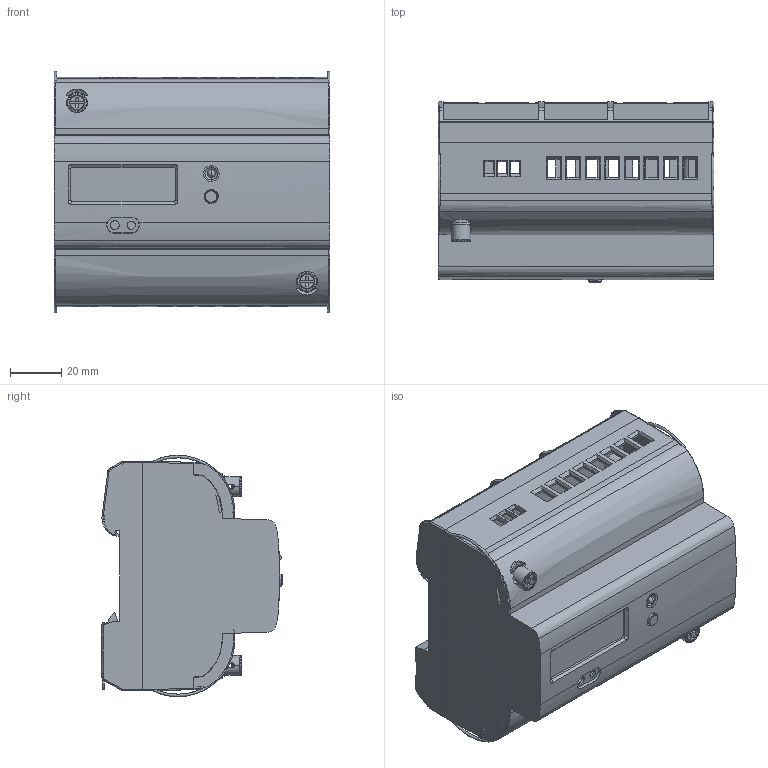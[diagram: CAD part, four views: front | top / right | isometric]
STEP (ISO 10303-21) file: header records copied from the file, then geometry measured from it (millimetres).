
FILE_DESCRIPTION((''),'2;1');
FILE_NAME('PRT0002','2015-04-02T',('wangyaguang'),(''),'PRO/ENGINEER BY PARAMETRIC TECHNOLOGY CORPORATION, 2010280','PRO/ENGINEER BY PARAMETRIC TECHNOLOGY CORPORATION, 2010280','');
FILE_SCHEMA(('CONFIG_CONTROL_DESIGN'));
Products named in the file (1): PRT0002
Bounding box: 108 x 70.5 x 94.5 mm (x, y, z)
Surface area: 113260.7 mm2 (no closed solid volume)
Topology: 0 solids, 0 shells, 1235 faces, 6850 edges, 6813 vertices
Faces by surface type: bspline 1197, torus 26, sphere 12
Entity records: 104924 total; most frequent: CARTESIAN_POINT 43288, DIRECTION 9559, TRIMMED_CURVE 8810, VECTOR 8137, LINE 8137, DEFINITIONAL_REPRESENTATION 6780, PCURVE 6780, COMPOSITE_CURVE_SEGMENT 6780
